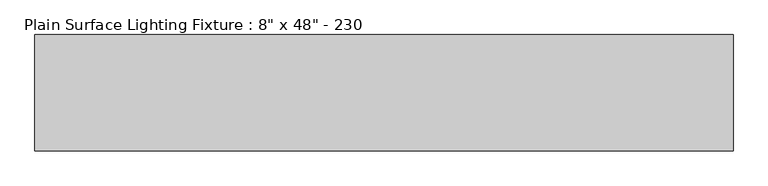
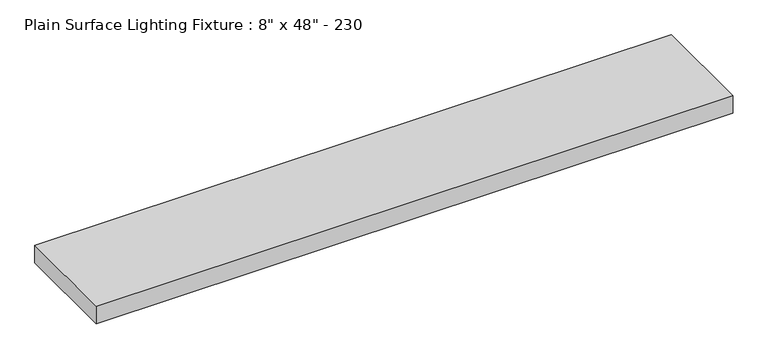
"""IFC4 building model written with IfcOpenShell, lengths in millimetres: light fixture geometry."""

from ifc_helpers import new_model, si_unit, origin, origin_with_axes, place, context, project, spatial, polyline, outline, extrude, source, transform, mapped, element, save


def light_fixture_64c2163c(model_context):
    return source(origin(), model_context, "Body", "SweptSolid", [
        extrude(outline(polyline([(261.1478646, 738.5213005), (261.1478646, 538.5213005), (-938.8521354, 538.5213005), (-938.8521354, 738.5213005), (261.1478646, 738.5213005)])), origin_with_axes(), (0.0, 0.0, 1.0), 35.0),
    ])


if __name__ == "__main__":
    model = new_model("IFC4")
    model_context = context("Model", 3, world=origin())
    ifc_project = project(units=[si_unit("LENGTHUNIT", "METRE", prefix="MILLI")], contexts=[model_context])
    site = spatial("IfcSite", under=ifc_project)
    building = spatial("IfcBuilding", under=site)
    placement = place(None, origin())
    light_fixture_shape = light_fixture_64c2163c(model_context)
    element("IfcLightFixture", 1, ObjectType="Plain Surface Lighting Fixture : 8\" x 48\" - 230", at=placement, inside=building, context=model_context, shape_type="MappedRepresentation", body=[
        mapped(light_fixture_shape, transform((0.0, 0.0, 0.0), x_axis=(1.0, 0.0, 0.0), y_axis=(0.0, 1.0, 0.0), z_axis=(0.0, 0.0, 1.0))),
    ])
    save(model, "model.ifc")
